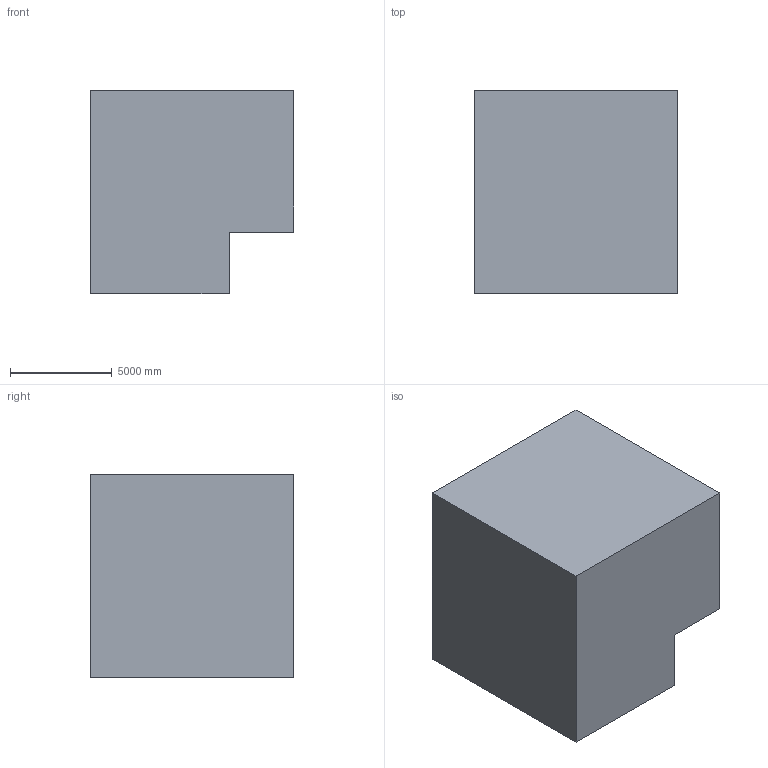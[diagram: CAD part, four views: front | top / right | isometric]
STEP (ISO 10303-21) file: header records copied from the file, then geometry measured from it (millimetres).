
FILE_DESCRIPTION (( 'STEP AP203' ), '1' );
FILE_NAME ('129.STEP', '2022-07-28T13:41:21', ( 'user' ), ( '' ), 'SwSTEP 2.0', 'SolidWorks 2021', '' );
FILE_SCHEMA (( 'CONFIG_CONTROL_DESIGN' ));
Length unit declared in the file: centimetre
Products named in the file (1): 129
Bounding box: 10000 x 10000 x 10000 mm (x, y, z)
Volume: 884640758766.6 mm3; surface area: 614210430.9 mm2
Topology: 1 solids, 1 shells, 13 faces, 30 edges, 20 vertices
Faces by surface type: plane 13
Entity records: 441 total; most frequent: CARTESIAN_POINT 64, ORIENTED_EDGE 60, DIRECTION 58, LINE 30, VECTOR 30, EDGE_CURVE 30, VERTEX_POINT 20, AXIS2_PLACEMENT_3D 14
